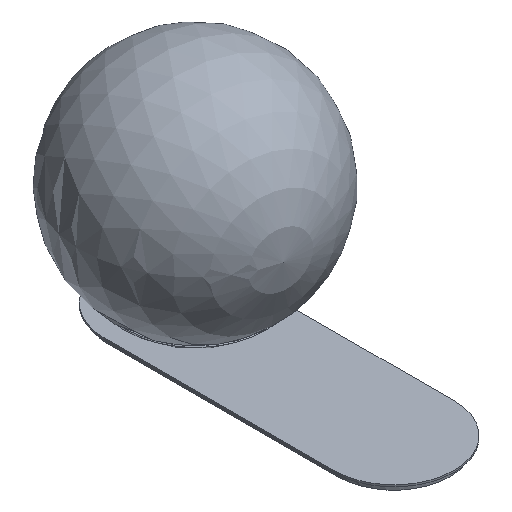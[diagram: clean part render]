
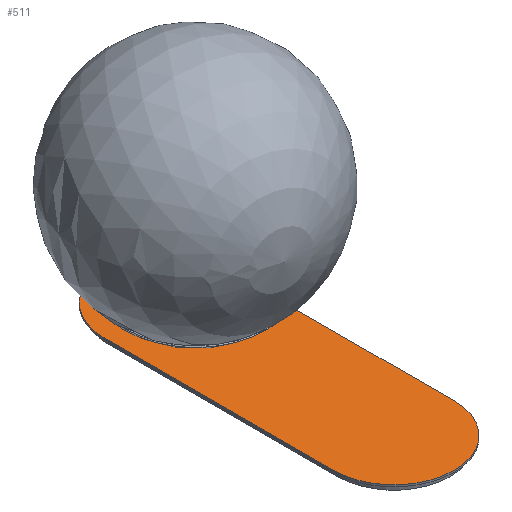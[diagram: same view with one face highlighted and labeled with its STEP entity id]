
A CAD part, isometric view. The second image highlights one B-rep face of the part: STEP entity #511.
In plain terms, the highlighted planar face has unit normal (0, 0, 1).
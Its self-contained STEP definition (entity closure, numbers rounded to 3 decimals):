
#30=PLANE('',#585);
#76=FACE_OUTER_BOUND('',#113,.T.);
#113=EDGE_LOOP('',(#357,#358,#359,#360));
#144=LINE('',#816,#171);
#145=LINE('',#820,#172);
#171=VECTOR('',#676,10.);
#172=VECTOR('',#679,10.);
#202=CIRCLE('',#586,52.5);
#203=CIRCLE('',#587,52.5);
#233=VERTEX_POINT('',#814);
#234=VERTEX_POINT('',#815);
#235=VERTEX_POINT('',#817);
#236=VERTEX_POINT('',#819);
#281=EDGE_CURVE('',#233,#234,#144,.T.);
#282=EDGE_CURVE('',#234,#235,#202,.T.);
#283=EDGE_CURVE('',#235,#236,#145,.T.);
#284=EDGE_CURVE('',#236,#233,#203,.T.);
#357=ORIENTED_EDGE('',*,*,#281,.T.);
#358=ORIENTED_EDGE('',*,*,#282,.T.);
#359=ORIENTED_EDGE('',*,*,#283,.T.);
#360=ORIENTED_EDGE('',*,*,#284,.T.);
#511=ADVANCED_FACE('',(#76),#30,.T.);
#585=AXIS2_PLACEMENT_3D('',#813,#674,#675);
#586=AXIS2_PLACEMENT_3D('',#818,#677,#678);
#587=AXIS2_PLACEMENT_3D('',#821,#680,#681);
#674=DIRECTION('center_axis',(0.,0.,
1.));
#675=DIRECTION('ref_axis',(-1.,0.,0.));
#676=DIRECTION('',(0.,1.,0.));
#677=DIRECTION('center_axis',(0.,0.,
1.));
#678=DIRECTION('ref_axis',(1.,0.,0.));
#679=DIRECTION('',(0.,-1.,0.));
#680=DIRECTION('center_axis',(0.,0.,
1.));
#681=DIRECTION('ref_axis',(-1.,0.,0.));
#813=CARTESIAN_POINT('Origin',(0.,-73.,6.5));
#814=CARTESIAN_POINT('',(52.5,-173.,6.5));
#815=CARTESIAN_POINT('',(52.5,27.,6.5));
#816=CARTESIAN_POINT('',(52.5,-173.,6.5));
#817=CARTESIAN_POINT('',(-52.5,27.,6.5));
#818=CARTESIAN_POINT('Origin',(0.,27.,6.5));
#819=CARTESIAN_POINT('',(-52.5,-173.,6.5));
#820=CARTESIAN_POINT('',(-52.5,27.,6.5));
#821=CARTESIAN_POINT('Origin',(0.,-173.,6.5));
